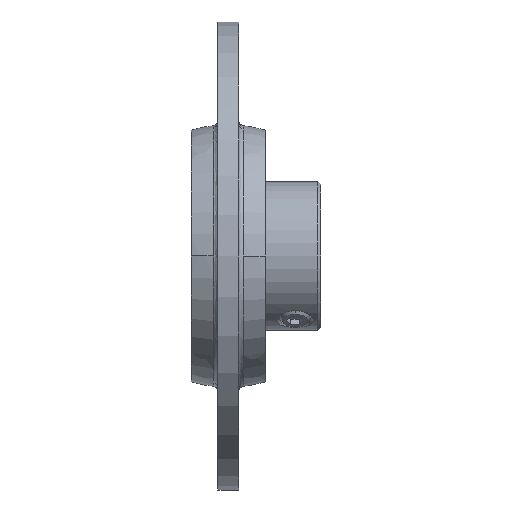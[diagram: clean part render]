
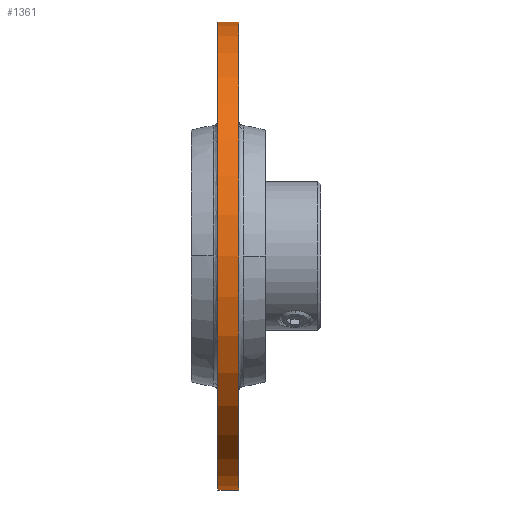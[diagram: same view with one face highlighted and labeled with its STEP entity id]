
A CAD part, front view. The second image highlights one B-rep face of the part: STEP entity #1361.
In plain terms, the highlighted cylindrical face has radius 45.5 mm (diameter 91 mm), a partial arc.
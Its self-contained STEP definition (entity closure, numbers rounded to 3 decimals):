
#87 = ORIENTED_EDGE ( 'NONE', *, *, #1761, .F. ) ;
#118 = DIRECTION ( 'NONE',  ( 0., 0., -1. ) ) ;
#336 = EDGE_CURVE ( 'NONE', #2863, #3274, #934, .T. ) ;
#339 = DIRECTION ( 'NONE',  ( 1., 0., 0. ) ) ;
#468 = FACE_OUTER_BOUND ( 'NONE', #1477, .T. ) ;
#806 = DIRECTION ( 'NONE',  ( 1., 0., 0. ) ) ;
#907 = LINE ( 'NONE', #2398, #1457 ) ;
#934 = LINE ( 'NONE', #3062, #2635 ) ;
#1273 = ORIENTED_EDGE ( 'NONE', *, *, #2725, .F. ) ;
#1342 = CARTESIAN_POINT ( 'NONE',  ( -2., 0., 45.5 ) ) ;
#1361 = ADVANCED_FACE ( 'NONE', ( #468 ), #3359, .T. ) ;
#1457 = VECTOR ( 'NONE', #3173, 1000. ) ;
#1477 = EDGE_LOOP ( 'NONE', ( #1273, #2511, #4013, #87 ) ) ;
#1761 = EDGE_CURVE ( 'NONE', #4035, #3274, #1826, .T. ) ;
#1826 = CIRCLE ( 'NONE', #2241, 45.5 ) ;
#1871 = CARTESIAN_POINT ( 'NONE',  ( -2., 0., 0. ) ) ;
#2230 = DIRECTION ( 'NONE',  ( 0., 0., 1. ) ) ;
#2241 = AXIS2_PLACEMENT_3D ( 'NONE', #3168, #3149, #118 ) ;
#2394 = CARTESIAN_POINT ( 'NONE',  ( 2., 0., -45.5 ) ) ;
#2398 = CARTESIAN_POINT ( 'NONE',  ( -130.693, 0., 45.5 ) ) ;
#2479 = AXIS2_PLACEMENT_3D ( 'NONE', #1871, #4129, #2230 ) ;
#2498 = CARTESIAN_POINT ( 'NONE',  ( -2., 0., -45.5 ) ) ;
#2511 = ORIENTED_EDGE ( 'NONE', *, *, #4500, .T. ) ;
#2635 = VECTOR ( 'NONE', #339, 1000. ) ;
#2725 = EDGE_CURVE ( 'NONE', #3437, #4035, #907, .T. ) ;
#2863 = VERTEX_POINT ( 'NONE', #2498 ) ;
#3062 = CARTESIAN_POINT ( 'NONE',  ( -130.693, 0., -45.5 ) ) ;
#3119 = CARTESIAN_POINT ( 'NONE',  ( -130.693, 0., 0. ) ) ;
#3149 = DIRECTION ( 'NONE',  ( 1., 0., 0. ) ) ;
#3168 = CARTESIAN_POINT ( 'NONE',  ( 2., 0., 0. ) ) ;
#3173 = DIRECTION ( 'NONE',  ( 1., 0., 0. ) ) ;
#3274 = VERTEX_POINT ( 'NONE', #2394 ) ;
#3359 = CYLINDRICAL_SURFACE ( 'NONE', #3725, 45.5 ) ;
#3437 = VERTEX_POINT ( 'NONE', #1342 ) ;
#3455 = CARTESIAN_POINT ( 'NONE',  ( 2., 0., 45.5 ) ) ;
#3484 = CIRCLE ( 'NONE', #2479, 45.5 ) ;
#3725 = AXIS2_PLACEMENT_3D ( 'NONE', #3119, #806, #4431 ) ;
#4013 = ORIENTED_EDGE ( 'NONE', *, *, #336, .T. ) ;
#4035 = VERTEX_POINT ( 'NONE', #3455 ) ;
#4129 = DIRECTION ( 'NONE',  ( 1., 0., 0. ) ) ;
#4431 = DIRECTION ( 'NONE',  ( 0., 0., -1. ) ) ;
#4500 = EDGE_CURVE ( 'NONE', #3437, #2863, #3484, .T. ) ;
